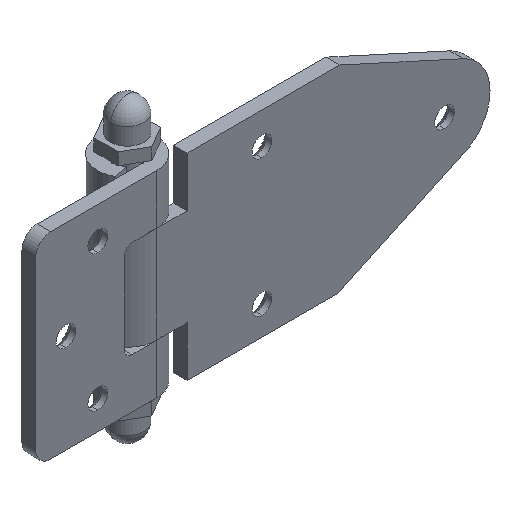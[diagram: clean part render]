
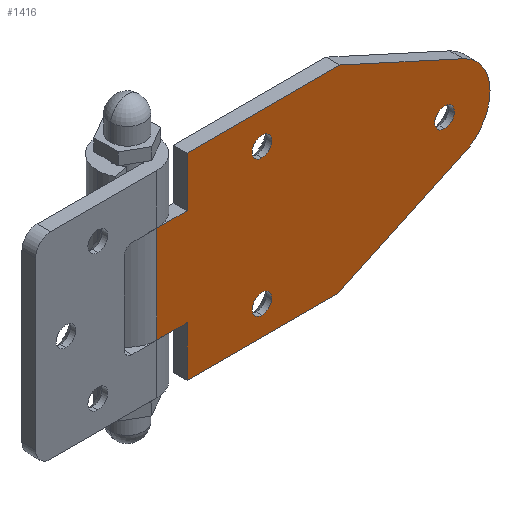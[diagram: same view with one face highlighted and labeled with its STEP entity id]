
A CAD part, isometric view. The second image highlights one B-rep face of the part: STEP entity #1416.
In plain terms, the highlighted planar face has unit normal (0, -1, 0).
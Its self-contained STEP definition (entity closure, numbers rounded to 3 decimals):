
#63 = CARTESIAN_POINT ( 'NONE',  ( 95., 0., 0.215 ) ) ;
#71 = VERTEX_POINT ( 'NONE', #101 ) ;
#94 = CARTESIAN_POINT ( 'NONE',  ( 34.71, 0., -26.205 ) ) ;
#101 = CARTESIAN_POINT ( 'NONE',  ( 0., 0., 16. ) ) ;
#112 = DIRECTION ( 'NONE',  ( -0.91, 0., 0.415 ) ) ;
#128 = FACE_BOUND ( 'NONE', #2234, .T. ) ;
#133 = ORIENTED_EDGE ( 'NONE', *, *, #1108, .T. ) ;
#144 = CIRCLE ( 'NONE', #1100, 3.25 ) ;
#194 = ORIENTED_EDGE ( 'NONE', *, *, #578, .T. ) ;
#202 = CARTESIAN_POINT ( 'NONE',  ( 34.71, 0., -19.705 ) ) ;
#271 = CARTESIAN_POINT ( 'NONE',  ( 35.339, 0., -43.906 ) ) ;
#307 = ORIENTED_EDGE ( 'NONE', *, *, #2827, .F. ) ;
#312 = DIRECTION ( 'NONE',  ( 0., 0., 1. ) ) ;
#313 = AXIS2_PLACEMENT_3D ( 'NONE', #1753, #340, #2154 ) ;
#327 = LINE ( 'NONE', #807, #428 ) ;
#337 = CARTESIAN_POINT ( 'NONE',  ( 34.71, 0., 25.295 ) ) ;
#340 = DIRECTION ( 'NONE',  ( 0., -1., 0. ) ) ;
#342 = DIRECTION ( 'NONE',  ( 0., 1., 0. ) ) ;
#366 = VERTEX_POINT ( 'NONE', #1451 ) ;
#372 = PLANE ( 'NONE',  #1324 ) ;
#428 = VECTOR ( 'NONE', #1741, 1000. ) ;
#435 = VECTOR ( 'NONE', #1908, 1000. ) ;
#453 = DIRECTION ( 'NONE',  ( 1., 0., 0. ) ) ;
#462 = VERTEX_POINT ( 'NONE', #2593 ) ;
#472 = CARTESIAN_POINT ( 'NONE',  ( 95., 0., 0.215 ) ) ;
#548 = EDGE_CURVE ( 'NONE', #71, #2746, #1920, .T. ) ;
#574 = LINE ( 'NONE', #626, #1917 ) ;
#578 = EDGE_CURVE ( 'NONE', #3000, #1706, #2482, .T. ) ;
#588 = VERTEX_POINT ( 'NONE', #2174 ) ;
#595 = ORIENTED_EDGE ( 'NONE', *, *, #1333, .T. ) ;
#610 = DIRECTION ( 'NONE',  ( 1., 0., 0. ) ) ;
#617 = CARTESIAN_POINT ( 'NONE',  ( 34.71, 0., -22.955 ) ) ;
#626 = CARTESIAN_POINT ( 'NONE',  ( 0., 0., -16. ) ) ;
#641 = VECTOR ( 'NONE', #453, 1000. ) ;
#678 = DIRECTION ( 'NONE',  ( 0., 1., 0. ) ) ;
#679 = CARTESIAN_POINT ( 'NONE',  ( 10., 0., 32.5 ) ) ;
#701 = DIRECTION ( 'NONE',  ( 0., 0., 1. ) ) ;
#737 = ORIENTED_EDGE ( 'NONE', *, *, #1373, .T. ) ;
#747 = AXIS2_PLACEMENT_3D ( 'NONE', #2530, #2993, #2727 ) ;
#759 = CARTESIAN_POINT ( 'NONE',  ( 0., 0., 32.5 ) ) ;
#775 = DIRECTION ( 'NONE',  ( 0., 1., 0. ) ) ;
#807 = CARTESIAN_POINT ( 'NONE',  ( 0., 0., 16. ) ) ;
#818 = VERTEX_POINT ( 'NONE', #2773 ) ;
#853 = VERTEX_POINT ( 'NONE', #2804 ) ;
#871 = ORIENTED_EDGE ( 'NONE', *, *, #2568, .T. ) ;
#872 = VECTOR ( 'NONE', #2633, 1000. ) ;
#878 = VECTOR ( 'NONE', #2038, 1000. ) ;
#948 = DIRECTION ( 'NONE',  ( 0., 1., 0. ) ) ;
#997 = CARTESIAN_POINT ( 'NONE',  ( 10., 0., 16. ) ) ;
#999 = EDGE_LOOP ( 'NONE', ( #194, #1307 ) ) ;
#1004 = VERTEX_POINT ( 'NONE', #2283 ) ;
#1022 = EDGE_LOOP ( 'NONE', ( #2010, #595, #307, #1924, #1691, #2050, #871, #1299, #1871, #133 ) ) ;
#1026 = LINE ( 'NONE', #1963, #1339 ) ;
#1030 = VERTEX_POINT ( 'NONE', #202 ) ;
#1042 = EDGE_CURVE ( 'NONE', #1706, #3000, #2906, .T. ) ;
#1092 = CIRCLE ( 'NONE', #3050, 3.25 ) ;
#1100 = AXIS2_PLACEMENT_3D ( 'NONE', #63, #775, #312 ) ;
#1105 = EDGE_CURVE ( 'NONE', #588, #2854, #2806, .T. ) ;
#1108 = EDGE_CURVE ( 'NONE', #818, #1004, #2376, .T. ) ;
#1168 = AXIS2_PLACEMENT_3D ( 'NONE', #2911, #342, #2210 ) ;
#1283 = VERTEX_POINT ( 'NONE', #94 ) ;
#1290 = ORIENTED_EDGE ( 'NONE', *, *, #2824, .T. ) ;
#1294 = DIRECTION ( 'NONE',  ( 0., 0., -1. ) ) ;
#1299 = ORIENTED_EDGE ( 'NONE', *, *, #2741, .T. ) ;
#1307 = ORIENTED_EDGE ( 'NONE', *, *, #1042, .T. ) ;
#1324 = AXIS2_PLACEMENT_3D ( 'NONE', #1607, #678, #2560 ) ;
#1327 = EDGE_CURVE ( 'NONE', #2854, #588, #144, .T. ) ;
#1333 = EDGE_CURVE ( 'NONE', #2457, #853, #1026, .T. ) ;
#1339 = VECTOR ( 'NONE', #112, 1000. ) ;
#1343 = EDGE_CURVE ( 'NONE', #2638, #71, #327, .T. ) ;
#1373 = EDGE_CURVE ( 'NONE', #1030, #1283, #1092, .T. ) ;
#1416 = ADVANCED_FACE ( 'NONE', ( #2045, #128, #2496, #2059 ), #372, .F. ) ;
#1451 = CARTESIAN_POINT ( 'NONE',  ( 10., 0., 32.5 ) ) ;
#1607 = CARTESIAN_POINT ( 'NONE',  ( 0., 0., 32.5 ) ) ;
#1629 = AXIS2_PLACEMENT_3D ( 'NONE', #472, #1921, #701 ) ;
#1634 = DIRECTION ( 'NONE',  ( 0., 0., 1. ) ) ;
#1691 = ORIENTED_EDGE ( 'NONE', *, *, #1343, .T. ) ;
#1706 = VERTEX_POINT ( 'NONE', #1717 ) ;
#1717 = CARTESIAN_POINT ( 'NONE',  ( 34.71, 0., 18.795 ) ) ;
#1741 = DIRECTION ( 'NONE',  ( -1., 0., 0. ) ) ;
#1743 = EDGE_CURVE ( 'NONE', #1004, #2457, #2438, .T. ) ;
#1753 = CARTESIAN_POINT ( 'NONE',  ( 95., 0., 0.215 ) ) ;
#1816 = ORIENTED_EDGE ( 'NONE', *, *, #1327, .T. ) ;
#1819 = DIRECTION ( 'NONE',  ( 0., 1., 0. ) ) ;
#1821 = CIRCLE ( 'NONE', #2515, 3.25 ) ;
#1855 = EDGE_CURVE ( 'NONE', #462, #818, #1975, .T. ) ;
#1871 = ORIENTED_EDGE ( 'NONE', *, *, #1855, .T. ) ;
#1877 = CARTESIAN_POINT ( 'NONE',  ( 34.71, 0., -22.955 ) ) ;
#1908 = DIRECTION ( 'NONE',  ( 0.908, 0., 0.42 ) ) ;
#1917 = VECTOR ( 'NONE', #610, 1000. ) ;
#1920 = LINE ( 'NONE', #759, #872 ) ;
#1921 = DIRECTION ( 'NONE',  ( 0., 1., 0. ) ) ;
#1924 = ORIENTED_EDGE ( 'NONE', *, *, #2740, .T. ) ;
#1963 = CARTESIAN_POINT ( 'NONE',  ( 10.376, 0., 55.267 ) ) ;
#1975 = LINE ( 'NONE', #2244, #878 ) ;
#2010 = ORIENTED_EDGE ( 'NONE', *, *, #1743, .T. ) ;
#2032 = CARTESIAN_POINT ( 'NONE',  ( 0., 0., -16. ) ) ;
#2038 = DIRECTION ( 'NONE',  ( 1., 0., 0. ) ) ;
#2045 = FACE_BOUND ( 'NONE', #999, .T. ) ;
#2050 = ORIENTED_EDGE ( 'NONE', *, *, #548, .T. ) ;
#2059 = FACE_OUTER_BOUND ( 'NONE', #1022, .T. ) ;
#2092 = CARTESIAN_POINT ( 'NONE',  ( 101.221, 0., 13.864 ) ) ;
#2154 = DIRECTION ( 'NONE',  ( 0., 0., 1. ) ) ;
#2165 = CARTESIAN_POINT ( 'NONE',  ( 10., 0., -16. ) ) ;
#2174 = CARTESIAN_POINT ( 'NONE',  ( 95., 0., -3.035 ) ) ;
#2195 = VERTEX_POINT ( 'NONE', #2165 ) ;
#2210 = DIRECTION ( 'NONE',  ( 0., 0., 1. ) ) ;
#2218 = CARTESIAN_POINT ( 'NONE',  ( 95., 0., 3.465 ) ) ;
#2219 = DIRECTION ( 'NONE',  ( 0., 0., -1. ) ) ;
#2234 = EDGE_LOOP ( 'NONE', ( #737, #1290 ) ) ;
#2244 = CARTESIAN_POINT ( 'NONE',  ( 0., 0., -32.5 ) ) ;
#2283 = CARTESIAN_POINT ( 'NONE',  ( 101.297, 0., -13.4 ) ) ;
#2333 = ORIENTED_EDGE ( 'NONE', *, *, #1105, .T. ) ;
#2376 = LINE ( 'NONE', #271, #435 ) ;
#2438 = CIRCLE ( 'NONE', #313, 15. ) ;
#2457 = VERTEX_POINT ( 'NONE', #2092 ) ;
#2482 = CIRCLE ( 'NONE', #1168, 3.25 ) ;
#2483 = LINE ( 'NONE', #679, #2756 ) ;
#2496 = FACE_BOUND ( 'NONE', #2765, .T. ) ;
#2515 = AXIS2_PLACEMENT_3D ( 'NONE', #1877, #948, #1634 ) ;
#2530 = CARTESIAN_POINT ( 'NONE',  ( 34.71, 0., 22.045 ) ) ;
#2560 = DIRECTION ( 'NONE',  ( 0., 0., 1. ) ) ;
#2568 = EDGE_CURVE ( 'NONE', #2746, #2195, #574, .T. ) ;
#2577 = LINE ( 'NONE', #3051, #641 ) ;
#2593 = CARTESIAN_POINT ( 'NONE',  ( 10., 0., -32.5 ) ) ;
#2633 = DIRECTION ( 'NONE',  ( 0., 0., -1. ) ) ;
#2638 = VERTEX_POINT ( 'NONE', #997 ) ;
#2659 = VECTOR ( 'NONE', #2219, 1000. ) ;
#2715 = CARTESIAN_POINT ( 'NONE',  ( 10., 0., 32.5 ) ) ;
#2727 = DIRECTION ( 'NONE',  ( 0., 0., 1. ) ) ;
#2740 = EDGE_CURVE ( 'NONE', #366, #2638, #2483, .T. ) ;
#2741 = EDGE_CURVE ( 'NONE', #2195, #462, #2944, .T. ) ;
#2746 = VERTEX_POINT ( 'NONE', #2032 ) ;
#2753 = DIRECTION ( 'NONE',  ( 0., 0., 1. ) ) ;
#2756 = VECTOR ( 'NONE', #1294, 1000. ) ;
#2765 = EDGE_LOOP ( 'NONE', ( #1816, #2333 ) ) ;
#2773 = CARTESIAN_POINT ( 'NONE',  ( 60., 0., -32.5 ) ) ;
#2804 = CARTESIAN_POINT ( 'NONE',  ( 60.33, 0., 32.5 ) ) ;
#2806 = CIRCLE ( 'NONE', #1629, 3.25 ) ;
#2824 = EDGE_CURVE ( 'NONE', #1283, #1030, #1821, .T. ) ;
#2827 = EDGE_CURVE ( 'NONE', #366, #853, #2577, .T. ) ;
#2854 = VERTEX_POINT ( 'NONE', #2218 ) ;
#2906 = CIRCLE ( 'NONE', #747, 3.25 ) ;
#2911 = CARTESIAN_POINT ( 'NONE',  ( 34.71, 0., 22.045 ) ) ;
#2944 = LINE ( 'NONE', #2715, #2659 ) ;
#2993 = DIRECTION ( 'NONE',  ( 0., 1., 0. ) ) ;
#3000 = VERTEX_POINT ( 'NONE', #337 ) ;
#3050 = AXIS2_PLACEMENT_3D ( 'NONE', #617, #1819, #2753 ) ;
#3051 = CARTESIAN_POINT ( 'NONE',  ( 0., 0., 32.5 ) ) ;
